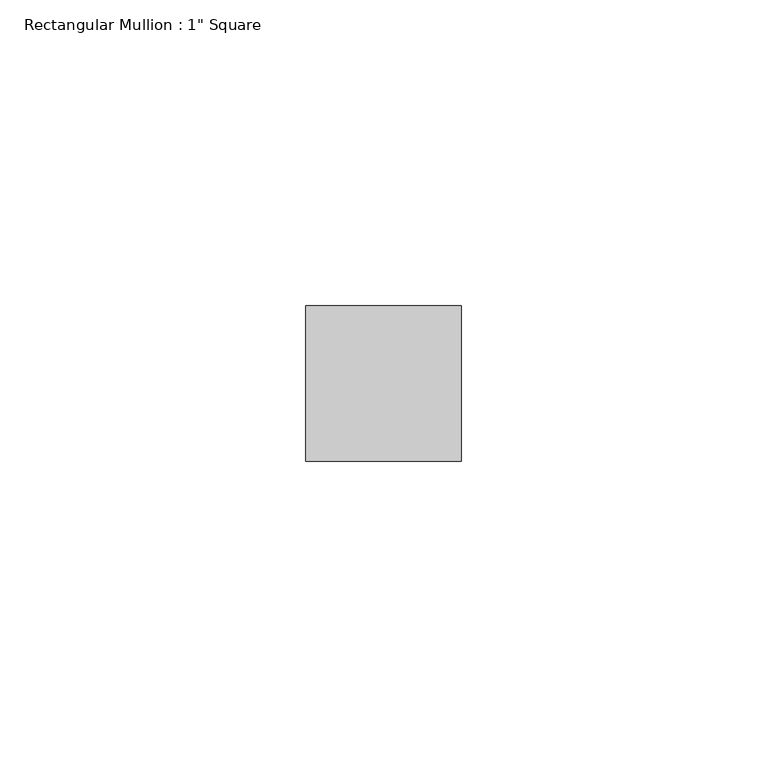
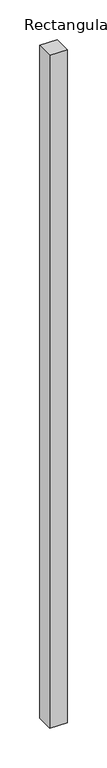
"""IFC4 building model written with IfcOpenShell, lengths in millimetres: member geometry."""

from ifc_helpers import new_model, si_unit, frame, origin, place, context, project, spatial, polyline, outline, extrude, source, transform, mapped, element, save


def member_1b20e6ad(model_context):
    return source(origin(), model_context, "Body", "SweptSolid", [
        extrude(outline(polyline([(0.0, 12.7), (0.0, -12.7), (-25.4, -12.7), (-25.4, 12.7), (0.0, 12.7)])), frame((0.0, 0.0, -1035.9115409), z_axis=(0.0, 0.0, 1.0), x_axis=(1.0, 0.0, 0.0)), (0.0, 0.0, 1.0), 1035.9115409),
    ])


if __name__ == "__main__":
    model = new_model("IFC4")
    model_context = context("Model", 3, world=origin())
    ifc_project = project(units=[si_unit("LENGTHUNIT", "METRE", prefix="MILLI")], contexts=[model_context])
    site = spatial("IfcSite", under=ifc_project)
    building = spatial("IfcBuilding", under=site)
    placement = place(None, origin())
    member_shape = member_1b20e6ad(model_context)
    element("IfcMember", 1, ObjectType="Rectangular Mullion : 1\" Square", at=placement, inside=building, context=model_context, shape_type="MappedRepresentation", body=[
        mapped(member_shape, transform((0.0, 0.0, 0.0), x_axis=(1.0, 0.0, 0.0), y_axis=(0.0, 1.0, 0.0), z_axis=(0.0, 0.0, 1.0))),
    ])
    save(model, "model.ifc")
